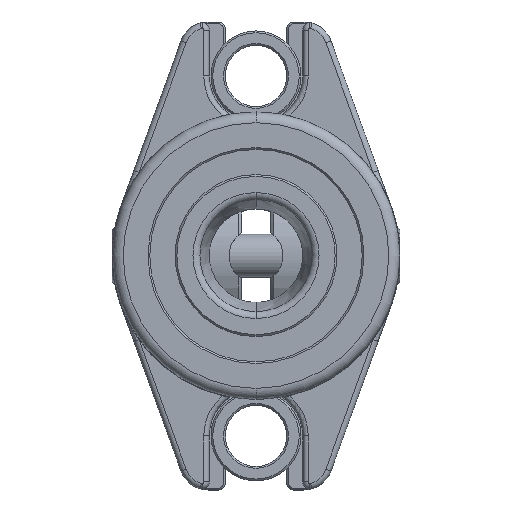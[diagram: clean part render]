
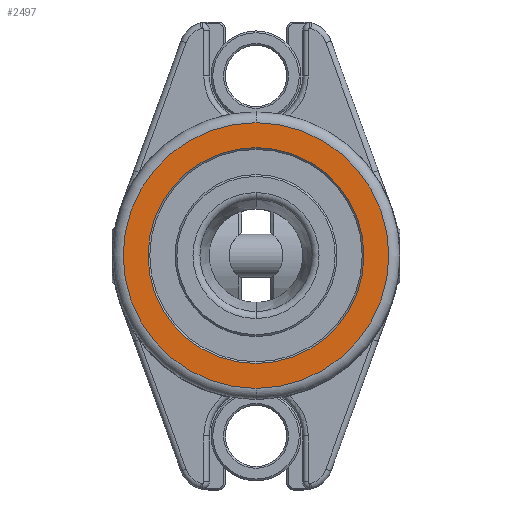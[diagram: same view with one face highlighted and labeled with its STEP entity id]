
A CAD part, top view. The second image highlights one B-rep face of the part: STEP entity #2497.
In plain terms, the highlighted planar face has unit normal (0, 0, 1).
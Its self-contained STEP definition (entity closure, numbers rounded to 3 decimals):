
#750 = CARTESIAN_POINT ( 'NONE',  ( 0., 0., 80. ) ) ;
#880 = DIRECTION ( 'NONE',  ( 0., 0., -1. ) ) ;
#1525 = AXIS2_PLACEMENT_3D ( 'NONE', #750, #1685, #7504 ) ;
#1642 = FACE_BOUND ( 'NONE', #8336, .T. ) ;
#1685 = DIRECTION ( 'NONE',  ( 0., 0., -1. ) ) ;
#1687 = ORIENTED_EDGE ( 'NONE', *, *, #11755, .T. ) ;
#1827 = AXIS2_PLACEMENT_3D ( 'NONE', #9638, #6500, #4266 ) ;
#1919 = DIRECTION ( 'NONE',  ( 0., 0., 1. ) ) ;
#1920 = VERTEX_POINT ( 'NONE', #2174 ) ;
#2174 = CARTESIAN_POINT ( 'NONE',  ( 0., -30., 80. ) ) ;
#2497 = ADVANCED_FACE ( 'NONE', ( #3158, #1642 ), #4994, .T. ) ;
#3058 = DIRECTION ( 'NONE',  ( 0., 1., 0. ) ) ;
#3158 = FACE_OUTER_BOUND ( 'NONE', #6721, .T. ) ;
#3304 = CARTESIAN_POINT ( 'NONE',  ( 0., 36.9, 80. ) ) ;
#3746 = CARTESIAN_POINT ( 'NONE',  ( 0., -36.9, 80. ) ) ;
#3808 = DIRECTION ( 'NONE',  ( 0., 0., 1. ) ) ;
#3827 = CARTESIAN_POINT ( 'NONE',  ( 13., 0., 80. ) ) ;
#4151 = CARTESIAN_POINT ( 'NONE',  ( 0., 0., 80. ) ) ;
#4184 = DIRECTION ( 'NONE',  ( 0., -1., 0. ) ) ;
#4266 = DIRECTION ( 'NONE',  ( 0., -1., 0. ) ) ;
#4994 = PLANE ( 'NONE',  #8171 ) ;
#5083 = CIRCLE ( 'NONE', #1827, 36.9 ) ;
#5934 = CIRCLE ( 'NONE', #1525, 30. ) ;
#5992 = CIRCLE ( 'NONE', #8551, 30. ) ;
#6015 = AXIS2_PLACEMENT_3D ( 'NONE', #10422, #3808, #10350 ) ;
#6134 = CARTESIAN_POINT ( 'NONE',  ( 0., 30., 80. ) ) ;
#6500 = DIRECTION ( 'NONE',  ( 0., 0., 1. ) ) ;
#6663 = EDGE_CURVE ( 'NONE', #12813, #1920, #5934, .T. ) ;
#6721 = EDGE_LOOP ( 'NONE', ( #11461, #1687 ) ) ;
#7504 = DIRECTION ( 'NONE',  ( 0., 1., 0. ) ) ;
#7898 = ORIENTED_EDGE ( 'NONE', *, *, #11133, .T. ) ;
#8171 = AXIS2_PLACEMENT_3D ( 'NONE', #3827, #1919, #4184 ) ;
#8336 = EDGE_LOOP ( 'NONE', ( #7898, #8574 ) ) ;
#8479 = VERTEX_POINT ( 'NONE', #3746 ) ;
#8551 = AXIS2_PLACEMENT_3D ( 'NONE', #4151, #880, #3058 ) ;
#8574 = ORIENTED_EDGE ( 'NONE', *, *, #6663, .T. ) ;
#9638 = CARTESIAN_POINT ( 'NONE',  ( 0., 0., 80. ) ) ;
#10198 = CIRCLE ( 'NONE', #6015, 36.9 ) ;
#10350 = DIRECTION ( 'NONE',  ( 0., -1., 0. ) ) ;
#10422 = CARTESIAN_POINT ( 'NONE',  ( 0., 0., 80. ) ) ;
#11133 = EDGE_CURVE ( 'NONE', #1920, #12813, #5992, .T. ) ;
#11461 = ORIENTED_EDGE ( 'NONE', *, *, #11511, .T. ) ;
#11511 = EDGE_CURVE ( 'NONE', #8479, #11538, #5083, .T. ) ;
#11538 = VERTEX_POINT ( 'NONE', #3304 ) ;
#11755 = EDGE_CURVE ( 'NONE', #11538, #8479, #10198, .T. ) ;
#12813 = VERTEX_POINT ( 'NONE', #6134 ) ;
